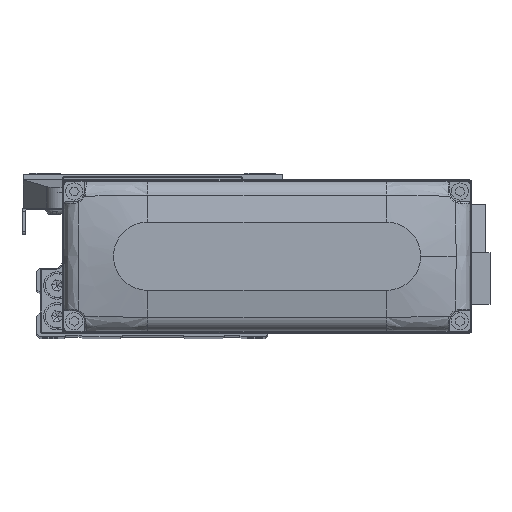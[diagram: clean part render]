
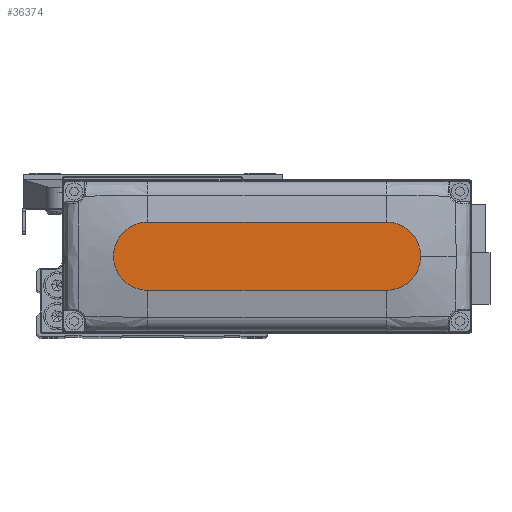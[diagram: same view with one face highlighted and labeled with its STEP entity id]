
A CAD part, top view. The second image highlights one B-rep face of the part: STEP entity #36374.
In plain terms, the highlighted planar face has unit normal (0, 0, 1).
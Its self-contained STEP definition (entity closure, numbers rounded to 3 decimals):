
#372 = VERTEX_POINT ( 'NONE', #21516 ) ;
#702 = ORIENTED_EDGE ( 'NONE', *, *, #17825, .T. ) ;
#2840 = DIRECTION ( 'NONE',  ( 0., 0., 1. ) ) ;
#2998 = CIRCLE ( 'NONE', #8585, 10. ) ;
#3073 = ORIENTED_EDGE ( 'NONE', *, *, #38780, .T. ) ;
#3502 = AXIS2_PLACEMENT_3D ( 'NONE', #5657, #19008, #32315 ) ;
#5657 = CARTESIAN_POINT ( 'NONE',  ( 0., 0., 28. ) ) ;
#5883 = CARTESIAN_POINT ( 'NONE',  ( 35., 10., 28. ) ) ;
#6020 = VERTEX_POINT ( 'NONE', #17201 ) ;
#6281 = LINE ( 'NONE', #19633, #13861 ) ;
#7178 = CARTESIAN_POINT ( 'NONE',  ( -35., 10., 28. ) ) ;
#7862 = EDGE_CURVE ( 'NONE', #32253, #372, #2998, .T. ) ;
#8102 = CARTESIAN_POINT ( 'NONE',  ( 35., 0., 28. ) ) ;
#8574 = CARTESIAN_POINT ( 'NONE',  ( 35., -10., 28. ) ) ;
#8585 = AXIS2_PLACEMENT_3D ( 'NONE', #32758, #2840, #16176 ) ;
#8775 = DIRECTION ( 'NONE',  ( 1., 0., 0. ) ) ;
#9584 = VECTOR ( 'NONE', #11225, 1000. ) ;
#9625 = AXIS2_PLACEMENT_3D ( 'NONE', #25400, #38707, #8775 ) ;
#11225 = DIRECTION ( 'NONE',  ( -1., 0., 0. ) ) ;
#13056 = VERTEX_POINT ( 'NONE', #5883 ) ;
#13861 = VECTOR ( 'NONE', #32943, 1000. ) ;
#14523 = VERTEX_POINT ( 'NONE', #7178 ) ;
#16176 = DIRECTION ( 'NONE',  ( 1., 0., 0. ) ) ;
#17201 = CARTESIAN_POINT ( 'NONE',  ( -35., -10., 28. ) ) ;
#17530 = ORIENTED_EDGE ( 'NONE', *, *, #23303, .T. ) ;
#17825 = EDGE_CURVE ( 'NONE', #6020, #32253, #6281, .T. ) ;
#18519 = EDGE_LOOP ( 'NONE', ( #17530, #3073, #702, #34625, #26487 ) ) ;
#19008 = DIRECTION ( 'NONE',  ( 0., 0., 1. ) ) ;
#19633 = CARTESIAN_POINT ( 'NONE',  ( -35., -10., 28. ) ) ;
#20975 = AXIS2_PLACEMENT_3D ( 'NONE', #8102, #21447, #34753 ) ;
#21447 = DIRECTION ( 'NONE',  ( 0., 0., 1. ) ) ;
#21516 = CARTESIAN_POINT ( 'NONE',  ( 45., 0., 28. ) ) ;
#22262 = FACE_OUTER_BOUND ( 'NONE', #18519, .T. ) ;
#23303 = EDGE_CURVE ( 'NONE', #13056, #14523, #27824, .T. ) ;
#25062 = EDGE_CURVE ( 'NONE', #372, #13056, #39790, .T. ) ;
#25400 = CARTESIAN_POINT ( 'NONE',  ( -35., 0., 28. ) ) ;
#26487 = ORIENTED_EDGE ( 'NONE', *, *, #25062, .T. ) ;
#27824 = LINE ( 'NONE', #41143, #9584 ) ;
#28483 = CIRCLE ( 'NONE', #9625, 10. ) ;
#32253 = VERTEX_POINT ( 'NONE', #8574 ) ;
#32315 = DIRECTION ( 'NONE',  ( 1., 0., 0. ) ) ;
#32758 = CARTESIAN_POINT ( 'NONE',  ( 35., 0., 28. ) ) ;
#32943 = DIRECTION ( 'NONE',  ( 1., 0., 0. ) ) ;
#34625 = ORIENTED_EDGE ( 'NONE', *, *, #7862, .T. ) ;
#34753 = DIRECTION ( 'NONE',  ( 1., 0., 0. ) ) ;
#35575 = PLANE ( 'NONE',  #3502 ) ;
#36374 = ADVANCED_FACE ( 'NONE', ( #22262 ), #35575, .T. ) ;
#38707 = DIRECTION ( 'NONE',  ( 0., 0., 1. ) ) ;
#38780 = EDGE_CURVE ( 'NONE', #14523, #6020, #28483, .T. ) ;
#39790 = CIRCLE ( 'NONE', #20975, 10. ) ;
#41143 = CARTESIAN_POINT ( 'NONE',  ( -35., 10., 28. ) ) ;
